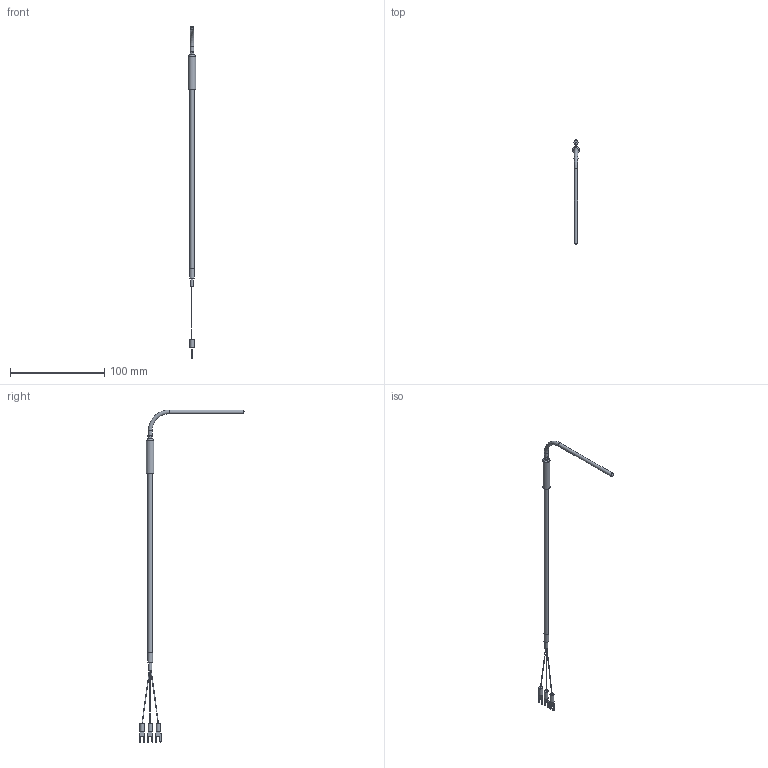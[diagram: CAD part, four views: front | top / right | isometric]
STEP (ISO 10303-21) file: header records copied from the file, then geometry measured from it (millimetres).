
FILE_DESCRIPTION (( 'STEP AP203' ), '1' );
FILE_NAME ('YIR111-3(0).STEP', '2024-10-29T07:55:48', ( '' ), ( '' ), 'SwSTEP 2.0', 'SolidWorks 2021', '' );
FILE_SCHEMA (( 'CONFIG_CONTROL_DESIGN' ));
Length unit declared in the file: millimetre
Products named in the file (1): YIR111-3(0)
Bounding box: 8 x 111.48 x 351.72 mm (x, y, z)
Volume: 7575 mm3; surface area: 6675.9 mm2
Topology: 1 solids, 1 shells, 91 faces, 222 edges, 145 vertices
Faces by surface type: plane 47, cylinder 31, bspline 8, cone 3, torus 2
Full cylindrical faces by diameter (mm): 0.5 x1, 3.16 x1, 4 x2, 4.5 x3, 4.8 x1, 5 x1, 8 x1
Entity records: 2817 total; most frequent: CARTESIAN_POINT 680, DIRECTION 424, ORIENTED_EDGE 400, EDGE_CURVE 200, AXIS2_PLACEMENT_3D 152, VERTEX_POINT 140, EDGE_LOOP 120, LINE 120
